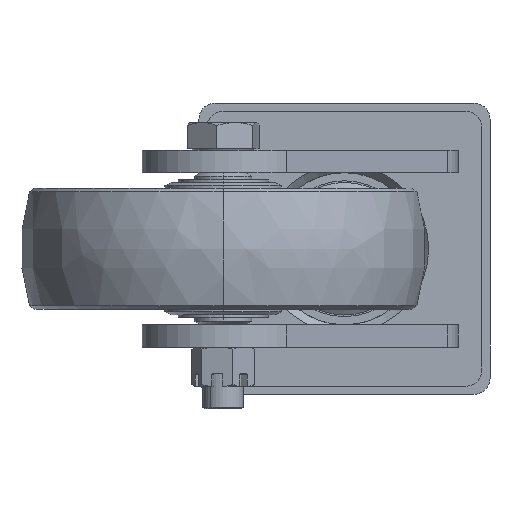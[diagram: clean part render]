
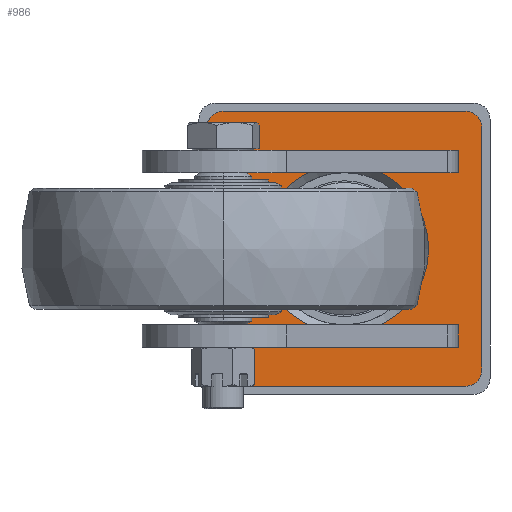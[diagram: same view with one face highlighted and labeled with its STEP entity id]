
A CAD part, front view. The second image highlights one B-rep face of the part: STEP entity #986.
In plain terms, the highlighted planar face has unit normal (0, -1, 0).
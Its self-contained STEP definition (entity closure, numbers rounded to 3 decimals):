
#32 = AXIS2_PLACEMENT_3D ( 'NONE', #5492, #4582, #10612 ) ;
#485 = DIRECTION ( 'NONE',  ( 0., 1., 0. ) ) ;
#589 = CARTESIAN_POINT ( 'NONE',  ( 107.505, -30.854, 75. ) ) ;
#609 = ORIENTED_EDGE ( 'NONE', *, *, #11026, .F. ) ;
#986 = ADVANCED_FACE ( 'NONE', ( #1817, #10834 ), #3207, .F. ) ;
#1574 = EDGE_CURVE ( 'NONE', #12278, #3455, #3465, .T. ) ;
#1677 = VERTEX_POINT ( 'NONE', #7313 ) ;
#1710 = ORIENTED_EDGE ( 'NONE', *, *, #6542, .F. ) ;
#1730 = CIRCLE ( 'NONE', #9774, 10. ) ;
#1817 = FACE_OUTER_BOUND ( 'NONE', #4297, .T. ) ;
#2219 = DIRECTION ( 'NONE',  ( -1., 0., 0. ) ) ;
#2347 = DIRECTION ( 'NONE',  ( 0., 0., -1. ) ) ;
#2457 = EDGE_CURVE ( 'NONE', #10841, #3133, #9734, .T. ) ;
#2477 = DIRECTION ( 'NONE',  ( 0., 0., -1. ) ) ;
#2613 = CARTESIAN_POINT ( 'NONE',  ( -42.495, -30.854, -85. ) ) ;
#2639 = DIRECTION ( 'NONE',  ( 0., 0., -1. ) ) ;
#2817 = VECTOR ( 'NONE', #8627, 1000. ) ;
#2935 = CIRCLE ( 'NONE', #11008, 10. ) ;
#3133 = VERTEX_POINT ( 'NONE', #5784 ) ;
#3207 = PLANE ( 'NONE',  #8966 ) ;
#3291 = DIRECTION ( 'NONE',  ( 0., 0., 1. ) ) ;
#3455 = VERTEX_POINT ( 'NONE', #8441 ) ;
#3465 = LINE ( 'NONE', #9058, #6674 ) ;
#3506 = ORIENTED_EDGE ( 'NONE', *, *, #2457, .T. ) ;
#4221 = CIRCLE ( 'NONE', #8218, 52.1 ) ;
#4297 = EDGE_LOOP ( 'NONE', ( #609, #12091, #9553, #6574, #10542, #9311, #1710, #4857 ) ) ;
#4447 = DIRECTION ( 'NONE',  ( 0., 1., 0. ) ) ;
#4513 = EDGE_CURVE ( 'NONE', #10365, #1677, #12113, .T. ) ;
#4582 = DIRECTION ( 'NONE',  ( 0., 1., 0. ) ) ;
#4584 = DIRECTION ( 'NONE',  ( 1., 0., 0. ) ) ;
#4847 = ORIENTED_EDGE ( 'NONE', *, *, #7510, .T. ) ;
#4857 = ORIENTED_EDGE ( 'NONE', *, *, #1574, .T. ) ;
#4988 = VERTEX_POINT ( 'NONE', #11009 ) ;
#5086 = EDGE_CURVE ( 'NONE', #7333, #1677, #2935, .T. ) ;
#5087 = CARTESIAN_POINT ( 'NONE',  ( 107.505, -30.854, 85. ) ) ;
#5351 = DIRECTION ( 'NONE',  ( 0., 0., -1. ) ) ;
#5402 = CARTESIAN_POINT ( 'NONE',  ( -52.495, -30.854, -85. ) ) ;
#5492 = CARTESIAN_POINT ( 'NONE',  ( 32.505, -30.854, 0. ) ) ;
#5784 = CARTESIAN_POINT ( 'NONE',  ( 32.505, -30.854, -52.1 ) ) ;
#6017 = LINE ( 'NONE', #9534, #2817 ) ;
#6068 = EDGE_CURVE ( 'NONE', #6727, #10927, #10265, .T. ) ;
#6430 = CARTESIAN_POINT ( 'NONE',  ( -42.495, -30.854, -75. ) ) ;
#6542 = EDGE_CURVE ( 'NONE', #12278, #4988, #11452, .T. ) ;
#6574 = ORIENTED_EDGE ( 'NONE', *, *, #7987, .T. ) ;
#6674 = VECTOR ( 'NONE', #2219, 1000. ) ;
#6727 = VERTEX_POINT ( 'NONE', #7308 ) ;
#7235 = DIRECTION ( 'NONE',  ( 0., 1., 0. ) ) ;
#7245 = CARTESIAN_POINT ( 'NONE',  ( 32.505, -30.854, 52.1 ) ) ;
#7308 = CARTESIAN_POINT ( 'NONE',  ( 117.505, -30.854, -75. ) ) ;
#7313 = CARTESIAN_POINT ( 'NONE',  ( -52.495, -30.854, -75. ) ) ;
#7333 = VERTEX_POINT ( 'NONE', #2613 ) ;
#7368 = DIRECTION ( 'NONE',  ( 0., 1., 0. ) ) ;
#7369 = DIRECTION ( 'NONE',  ( 0., 1., 0. ) ) ;
#7510 = EDGE_CURVE ( 'NONE', #3133, #10841, #4221, .T. ) ;
#7645 = EDGE_LOOP ( 'NONE', ( #4847, #3506 ) ) ;
#7695 = CARTESIAN_POINT ( 'NONE',  ( -52.495, -30.854, -85. ) ) ;
#7817 = AXIS2_PLACEMENT_3D ( 'NONE', #589, #7369, #2639 ) ;
#7987 = EDGE_CURVE ( 'NONE', #7333, #10927, #8959, .T. ) ;
#8129 = VECTOR ( 'NONE', #10732, 1000. ) ;
#8218 = AXIS2_PLACEMENT_3D ( 'NONE', #11085, #7235, #2347 ) ;
#8441 = CARTESIAN_POINT ( 'NONE',  ( -42.495, -30.854, 85. ) ) ;
#8627 = DIRECTION ( 'NONE',  ( 0., 0., 1. ) ) ;
#8959 = LINE ( 'NONE', #5402, #10974 ) ;
#8966 = AXIS2_PLACEMENT_3D ( 'NONE', #12007, #11065, #3291 ) ;
#9058 = CARTESIAN_POINT ( 'NONE',  ( -52.495, -30.854, 85. ) ) ;
#9086 = CARTESIAN_POINT ( 'NONE',  ( -52.495, -30.854, 75. ) ) ;
#9311 = ORIENTED_EDGE ( 'NONE', *, *, #10556, .T. ) ;
#9534 = CARTESIAN_POINT ( 'NONE',  ( 117.505, -30.854, -85. ) ) ;
#9553 = ORIENTED_EDGE ( 'NONE', *, *, #5086, .F. ) ;
#9636 = AXIS2_PLACEMENT_3D ( 'NONE', #11198, #485, #5351 ) ;
#9734 = CIRCLE ( 'NONE', #32, 52.1 ) ;
#9774 = AXIS2_PLACEMENT_3D ( 'NONE', #10159, #4447, #11292 ) ;
#10159 = CARTESIAN_POINT ( 'NONE',  ( -42.495, -30.854, 75. ) ) ;
#10265 = CIRCLE ( 'NONE', #9636, 10. ) ;
#10365 = VERTEX_POINT ( 'NONE', #9086 ) ;
#10542 = ORIENTED_EDGE ( 'NONE', *, *, #6068, .F. ) ;
#10556 = EDGE_CURVE ( 'NONE', #6727, #4988, #6017, .T. ) ;
#10612 = DIRECTION ( 'NONE',  ( 0., 0., -1. ) ) ;
#10732 = DIRECTION ( 'NONE',  ( 0., 0., -1. ) ) ;
#10834 = FACE_BOUND ( 'NONE', #7645, .T. ) ;
#10841 = VERTEX_POINT ( 'NONE', #7245 ) ;
#10921 = CARTESIAN_POINT ( 'NONE',  ( 107.505, -30.854, -85. ) ) ;
#10927 = VERTEX_POINT ( 'NONE', #10921 ) ;
#10974 = VECTOR ( 'NONE', #4584, 1000. ) ;
#11008 = AXIS2_PLACEMENT_3D ( 'NONE', #6430, #7368, #2477 ) ;
#11009 = CARTESIAN_POINT ( 'NONE',  ( 117.505, -30.854, 75. ) ) ;
#11026 = EDGE_CURVE ( 'NONE', #10365, #3455, #1730, .T. ) ;
#11065 = DIRECTION ( 'NONE',  ( 0., 1., 0. ) ) ;
#11085 = CARTESIAN_POINT ( 'NONE',  ( 32.505, -30.854, 0. ) ) ;
#11198 = CARTESIAN_POINT ( 'NONE',  ( 107.505, -30.854, -75. ) ) ;
#11292 = DIRECTION ( 'NONE',  ( 0., 0., -1. ) ) ;
#11452 = CIRCLE ( 'NONE', #7817, 10. ) ;
#12007 = CARTESIAN_POINT ( 'NONE',  ( 32.505, -30.854, 0. ) ) ;
#12091 = ORIENTED_EDGE ( 'NONE', *, *, #4513, .T. ) ;
#12113 = LINE ( 'NONE', #7695, #8129 ) ;
#12278 = VERTEX_POINT ( 'NONE', #5087 ) ;
